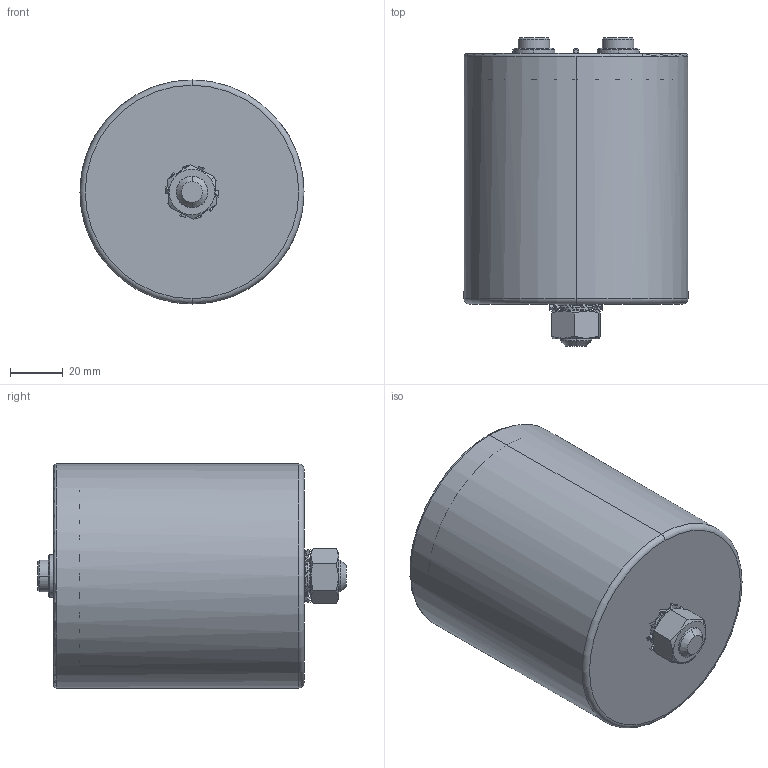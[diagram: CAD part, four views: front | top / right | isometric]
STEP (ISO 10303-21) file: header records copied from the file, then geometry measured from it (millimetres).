
FILE_DESCRIPTION (( 'STEP AP214' ), '1' );
FILE_NAME ('B25695 D85 Hc95 Ht101.STEP', '2024-06-04T08:57:09', ( '' ), ( '' ), 'SwSTEP 2.0', 'SolidWorks 2019', '' );
FILE_SCHEMA (( 'AUTOMOTIVE_DESIGN' ));
Length unit declared in the file: millimetre
Products named in the file (1): B25695 D85 Hc95 Ht101
Bounding box: 85 x 117 x 85 mm (x, y, z)
Volume: 105898.8 mm3; surface area: 87785.2 mm2
Topology: 1 solids, 2 shells, 275 faces, 754 edges, 488 vertices
Faces by surface type: plane 88, cylinder 70, cone 47, bspline 40, torus 30
Entity records: 9636 total; most frequent: CARTESIAN_POINT 3070, ORIENTED_EDGE 1500, DIRECTION 1212, EDGE_CURVE 750, VERTEX_POINT 488, AXIS2_PLACEMENT_3D 472, EDGE_LOOP 304, ADVANCED_FACE 275
